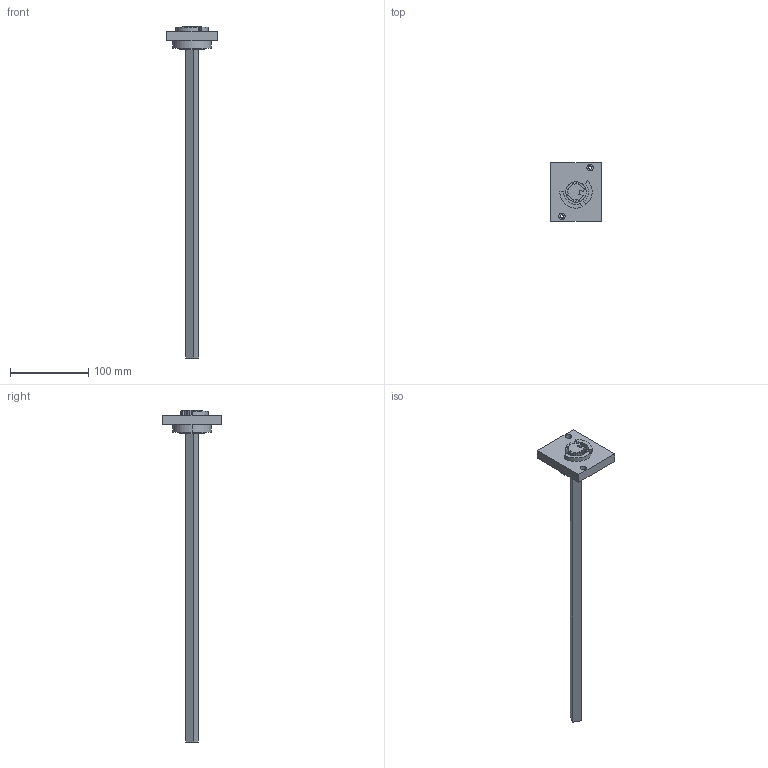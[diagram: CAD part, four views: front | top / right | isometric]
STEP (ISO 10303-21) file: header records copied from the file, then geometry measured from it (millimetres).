
FILE_DESCRIPTION((''),'2;1');
FILE_NAME('SB109287_3D-SIMPLIFIED_ASM','2013-08-23T',('Nico'),(''),'PRO/ENGINEER BY PARAMETRIC TECHNOLOGY CORPORATION, 2010480','PRO/ENGINEER BY PARAMETRIC TECHNOLOGY CORPORATION, 2010480','');
FILE_SCHEMA(('CONFIG_CONTROL_DESIGN'));
Length unit declared in the file: millimetre
Products named in the file (4): PIECE_03; PIECE_02; PIECE_05; SB109287_3D-SIMPLIFIED_ASM
Assembly tree (3 placements, depth 2):
  SB109287_3D-SIMPLIFIED_ASM
    PIECE_03
    PIECE_02
    PIECE_05
Bounding box: 65 x 75 x 424.3 mm (x, y, z)
Volume: 147372 mm3; surface area: 41643.7 mm2
Topology: 3 solids, 3 shells, 98 faces, 252 edges, 168 vertices
Faces by surface type: plane 61, cylinder 37
Entity records: 3130 total; most frequent: DIRECTION 556, CARTESIAN_POINT 525, ORIENTED_EDGE 504, EDGE_CURVE 252, AXIS2_PLACEMENT_3D 199, VERTEX_POINT 168, VECTOR 158, LINE 158
